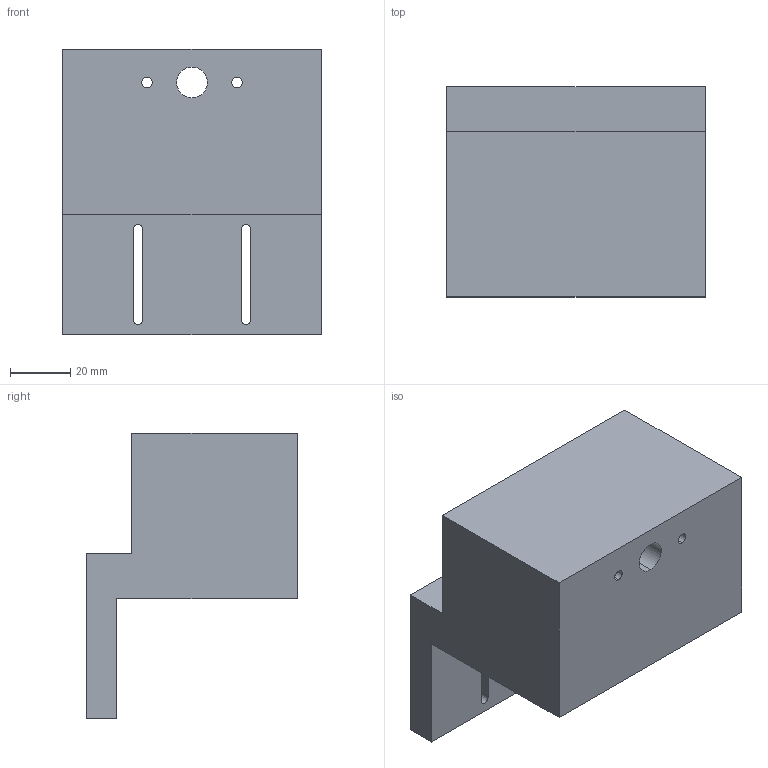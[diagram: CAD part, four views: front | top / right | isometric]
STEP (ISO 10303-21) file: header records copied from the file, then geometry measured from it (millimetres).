
FILE_DESCRIPTION (( 'STEP AP214' ), '1' );
FILE_NAME ('Deslizador prismatico SP.STEP', '2019-05-12T01:49:35', ( '' ), ( '' ), 'SwSTEP 2.0', 'SolidWorks 2018', '' );
FILE_SCHEMA (( 'AUTOMOTIVE_DESIGN' ));
Length unit declared in the file: millimetre
Products named in the file (1): Deslizador prismatico SP
Bounding box: 86 x 70 x 95 mm (x, y, z)
Volume: 306178.1 mm3; surface area: 39449 mm2
Topology: 1 solids, 1 shells, 26 faces, 72 edges, 48 vertices
Faces by surface type: plane 14, cylinder 12
Entity records: 894 total; most frequent: DIRECTION 150, CARTESIAN_POINT 147, ORIENTED_EDGE 144, EDGE_CURVE 72, AXIS2_PLACEMENT_3D 51, VECTOR 48, VERTEX_POINT 48, LINE 48
